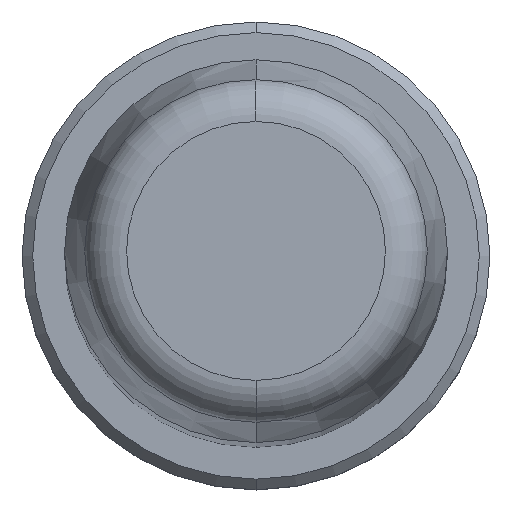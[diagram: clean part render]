
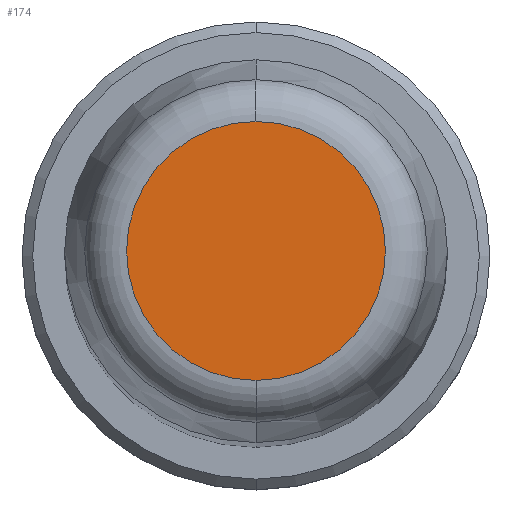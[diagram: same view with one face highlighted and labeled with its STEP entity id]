
A CAD part, top view. The second image highlights one B-rep face of the part: STEP entity #174.
In plain terms, the highlighted planar face has unit normal (0, 0, 1).
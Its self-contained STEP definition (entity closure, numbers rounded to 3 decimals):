
#1=CARTESIAN_POINT('',(0.,0.,140.));
#2=DIRECTION('',(0.,0.,-1.));
#3=DIRECTION('',(0.,-1.,0.));
#4=AXIS2_PLACEMENT_3D('',#1,#2,#3);
#6=CARTESIAN_POINT('',(0.,0.,140.));
#7=DIRECTION('',(0.,0.,-1.));
#8=DIRECTION('',(0.,1.,0.));
#9=AXIS2_PLACEMENT_3D('',#6,#7,#8);
#159=CARTESIAN_POINT('',(0.,-6.088,140.));
#160=CARTESIAN_POINT('',(0.,6.088,140.));
#161=VERTEX_POINT('',#159);
#162=VERTEX_POINT('',#160);
#163=CARTESIAN_POINT('',(0.,0.,140.));
#164=DIRECTION('',(0.,0.,1.));
#165=DIRECTION('',(0.,-1.,0.));
#166=AXIS2_PLACEMENT_3D('',#163,#164,#165);
#167=PLANE('',#166);
#169=ORIENTED_EDGE('',*,*,#168,.T.);
#171=ORIENTED_EDGE('',*,*,#170,.T.);
#172=EDGE_LOOP('',(#169,#171));
#173=FACE_OUTER_BOUND('',#172,.F.);
#174=ADVANCED_FACE('',(#173),#167,.T.);
#5=CIRCLE('',#4,6.088);
#10=CIRCLE('',#9,6.088);
#168=EDGE_CURVE('',#161,#162,#5,.T.);
#170=EDGE_CURVE('',#162,#161,#10,.T.);
